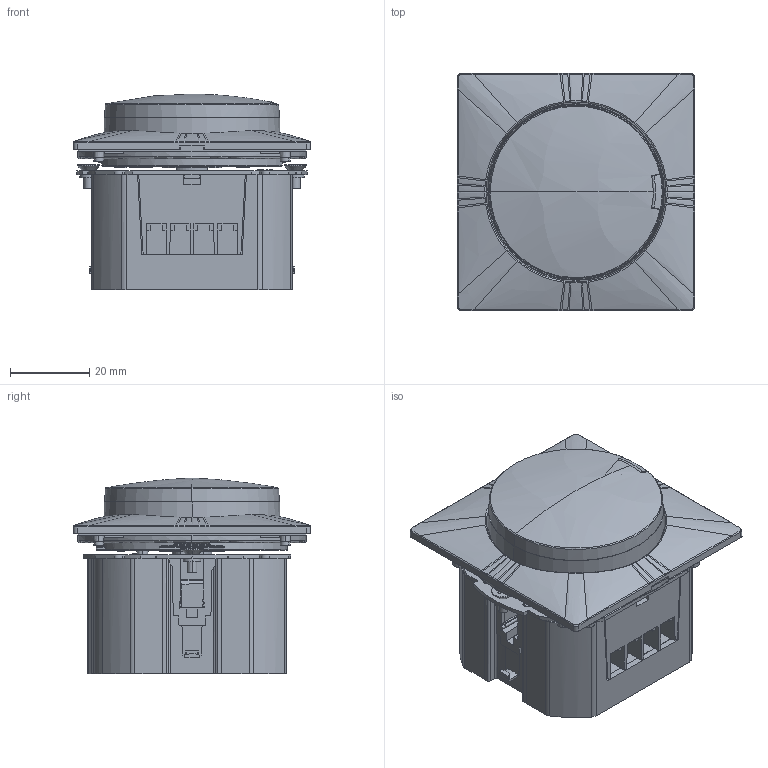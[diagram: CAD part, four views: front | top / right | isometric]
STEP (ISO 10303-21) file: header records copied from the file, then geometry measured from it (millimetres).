
FILE_DESCRIPTION((''),'2;1');
FILE_NAME('40420RLCF61_ASM','2022-05-26T13:56:54',('SESA231899'),('Schneider-Electric'),'CREO PARAMETRIC BY PTC INC, 2019471','CREO PARAMETRIC BY PTC INC, 2019471','');
FILE_SCHEMA(('CONFIG_CONTROL_DESIGN'));
Products named in the file (12): 40200LEDF61_1_1; 213550_1_1; 40200LEDF61-3D_ASM_1_ASM_1_ASM; 221391_1_C_1_1_1; 221389_1_C_1_1_1; 221390-S_1_C_1_1_1; 221394_1_C_1_1_1; 123456_ASM_1_ASM_1_ASM; 40420RLCF6114-3D_ASM_2_ASM_1_1_ASM; 40420RLCF6114_ASM_1_ASM_1_1_ASM; 40420RLCF6114_ASM_1_ASM; 40420RLCF61_ASM
Assembly tree (12 placements, depth 6):
  40420RLCF61_ASM
    40420RLCF6114_ASM_1_ASM
      40420RLCF6114_ASM_1_ASM_1_1_ASM
        40200LEDF61-3D_ASM_1_ASM_1_ASM
          40200LEDF61_1_1
          213550_1_1  x2
        40420RLCF6114-3D_ASM_2_ASM_1_1_ASM
          123456_ASM_1_ASM_1_ASM
            221391_1_C_1_1_1
            221389_1_C_1_1_1
            221390-S_1_C_1_1_1
            221394_1_C_1_1_1
Bounding box: 59.7 x 59.7 x 49.3 mm (x, y, z)
Volume: 81793.5 mm3; surface area: 36615.3 mm2
Topology: 7 solids, 7 shells, 1814 faces, 5032 edges, 3224 vertices
Faces by surface type: plane 785, cylinder 394, extrusion 238, bspline 228, torus 76, cone 57, sphere 36
Entity records: 77694 total; most frequent: CARTESIAN_POINT 34230, ORIENTED_EDGE 9880, DIRECTION 7711, EDGE_CURVE 4940, VERTEX_POINT 3188, VECTOR 2691, AXIS2_PLACEMENT_3D 2510, LINE 2453
